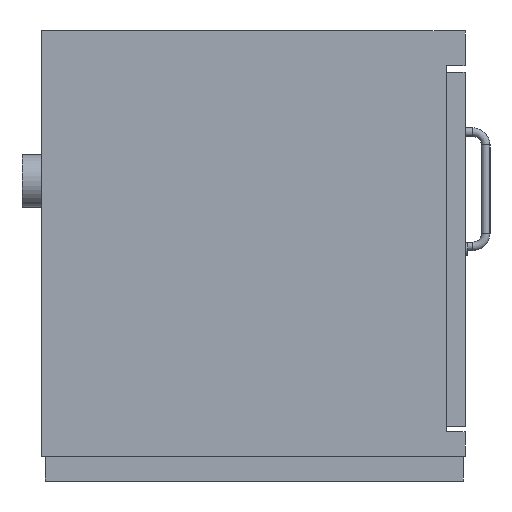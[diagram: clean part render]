
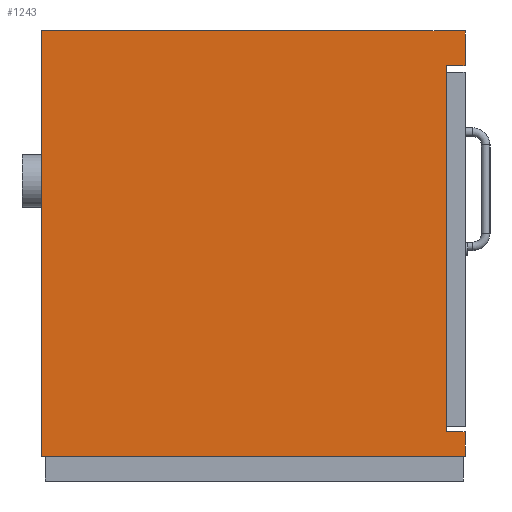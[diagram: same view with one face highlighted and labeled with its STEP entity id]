
A CAD part, left-side view. The second image highlights one B-rep face of the part: STEP entity #1243.
In plain terms, the highlighted planar face has unit normal (-1, 0, 0).
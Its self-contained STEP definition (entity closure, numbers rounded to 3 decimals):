
#63=LINE('',#1743,#135);
#64=LINE('',#1745,#136);
#69=LINE('',#1755,#141);
#72=LINE('',#1761,#144);
#73=LINE('',#1763,#145);
#88=LINE('',#1796,#160);
#89=LINE('',#1798,#161);
#90=LINE('',#1800,#162);
#135=VECTOR('',#1512,1000.);
#136=VECTOR('',#1515,1000.);
#141=VECTOR('',#1522,1000.);
#144=VECTOR('',#1527,1000.);
#145=VECTOR('',#1530,1000.);
#160=VECTOR('',#1561,1000.);
#161=VECTOR('',#1564,1000.);
#162=VECTOR('',#1565,1000.);
#360=ORIENTED_EDGE('',*,*,#462,.F.);
#361=ORIENTED_EDGE('',*,*,#459,.T.);
#362=ORIENTED_EDGE('',*,*,#454,.T.);
#363=ORIENTED_EDGE('',*,*,#453,.F.);
#364=ORIENTED_EDGE('',*,*,#479,.F.);
#365=ORIENTED_EDGE('',*,*,#480,.T.);
#366=ORIENTED_EDGE('',*,*,#481,.T.);
#367=ORIENTED_EDGE('',*,*,#463,.F.);
#453=EDGE_CURVE('',#541,#538,#63,.T.);
#454=EDGE_CURVE('',#542,#538,#64,.T.);
#459=EDGE_CURVE('',#545,#542,#69,.T.);
#462=EDGE_CURVE('',#545,#547,#72,.T.);
#463=EDGE_CURVE('',#547,#548,#73,.T.);
#479=EDGE_CURVE('',#557,#541,#88,.T.);
#480=EDGE_CURVE('',#557,#558,#89,.T.);
#481=EDGE_CURVE('',#558,#548,#90,.T.);
#538=VERTEX_POINT('',#1737);
#541=VERTEX_POINT('',#1742);
#542=VERTEX_POINT('',#1746);
#545=VERTEX_POINT('',#1753);
#547=VERTEX_POINT('',#1759);
#548=VERTEX_POINT('',#1764);
#557=VERTEX_POINT('',#1795);
#558=VERTEX_POINT('',#1799);
#670=EDGE_LOOP('',(#360,#361,#362,#363,#364,#365,#366,#367));
#760=FACE_BOUND('',#670,.T.);
#800=PLANE('',#1330);
#1243=ADVANCED_FACE('',(#760),#800,.F.);
#1330=AXIS2_PLACEMENT_3D('',#1797,#1562,#1563);
#1512=DIRECTION('',(0.,0.,-1.));
#1515=DIRECTION('',(0.,-1.,0.));
#1522=DIRECTION('',(0.,0.,1.));
#1527=DIRECTION('',(0.,-1.,0.));
#1530=DIRECTION('',(0.,0.,-1.));
#1561=DIRECTION('',(0.,-1.,0.));
#1562=DIRECTION('',(1.,0.,0.));
#1563=DIRECTION('',(0.,0.,-1.));
#1564=DIRECTION('',(0.,0.,-1.));
#1565=DIRECTION('',(0.,-1.,0.));
#1737=CARTESIAN_POINT('',(-255.75,0.,547.));
#1742=CARTESIAN_POINT('',(-255.75,0.,596.));
#1743=CARTESIAN_POINT('',(-255.75,0.,596.));
#1745=CARTESIAN_POINT('',(-255.75,26.,547.));
#1746=CARTESIAN_POINT('',(-255.75,26.,547.));
#1753=CARTESIAN_POINT('',(-255.75,26.,34.));
#1755=CARTESIAN_POINT('',(-255.75,26.,547.));
#1759=CARTESIAN_POINT('',(-255.75,0.,34.));
#1761=CARTESIAN_POINT('',(-255.75,26.,34.));
#1763=CARTESIAN_POINT('',(-255.75,0.,596.));
#1764=CARTESIAN_POINT('',(-255.75,0.,0.));
#1795=CARTESIAN_POINT('',(-255.75,593.5,596.));
#1796=CARTESIAN_POINT('',(-255.75,493.,596.));
#1797=CARTESIAN_POINT('',(-255.75,493.,596.));
#1798=CARTESIAN_POINT('',(-255.75,593.5,596.));
#1799=CARTESIAN_POINT('',(-255.75,593.5,0.));
#1800=CARTESIAN_POINT('',(-255.75,493.,0.));
